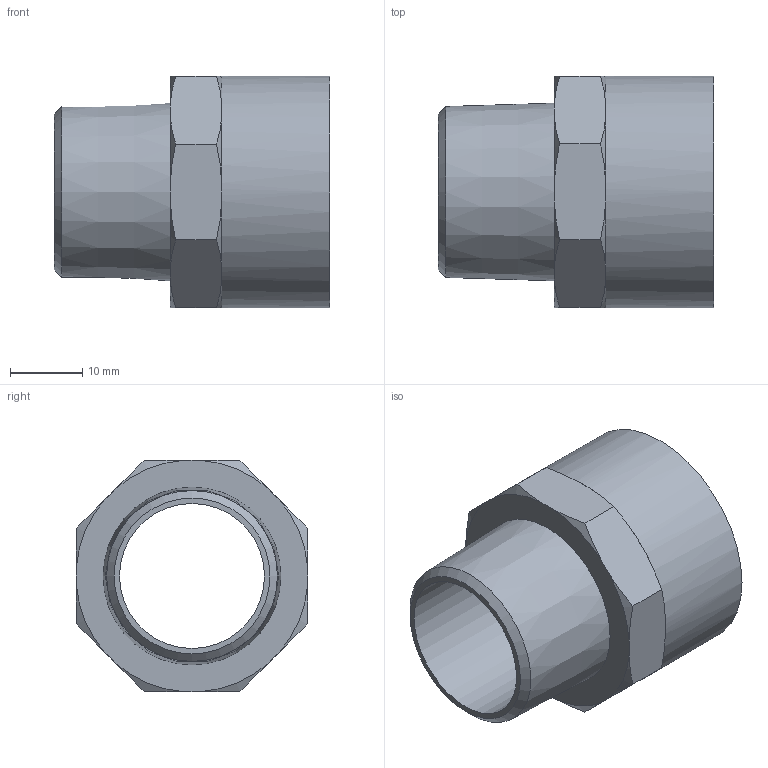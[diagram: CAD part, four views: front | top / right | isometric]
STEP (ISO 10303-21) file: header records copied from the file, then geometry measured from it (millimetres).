
FILE_DESCRIPTION((''),'2;1');
FILE_NAME('\\Lg50001\Groups\SANHA Legnica\Engineering\Public\RYSUNKI\SANHA POLSKA\4243G\step\14243_28-34(3).stp','2008-08-25T15:58:02',('pajchrowski'),(''),'Autodesk Inventor 2008','Autodesk Inventor 2008','');
FILE_SCHEMA(('AUTOMOTIVE_DESIGN { 1 0 10303 214 1 1 1 1 }'));
Length unit declared in the file: millimetre
Products named in the file (1): 14243_28-34(3)
Bounding box: 38 x 32 x 32 mm (x, y, z)
Volume: 7332.5 mm3; surface area: 7196.1 mm2
Topology: 1 solids, 1 shells, 42 faces, 96 edges, 58 vertices
Faces by surface type: plane 20, cone 19, cylinder 3
Full cylindrical faces by diameter (mm): 20 x1, 28.13 x1, 32 x1
Entity records: 1128 total; most frequent: CARTESIAN_POINT 253, ORIENTED_EDGE 178, DIRECTION 176, EDGE_CURVE 89, AXIS2_PLACEMENT_3D 76, VERTEX_POINT 57, EDGE_LOOP 52, FACE_OUTER_BOUND 42
